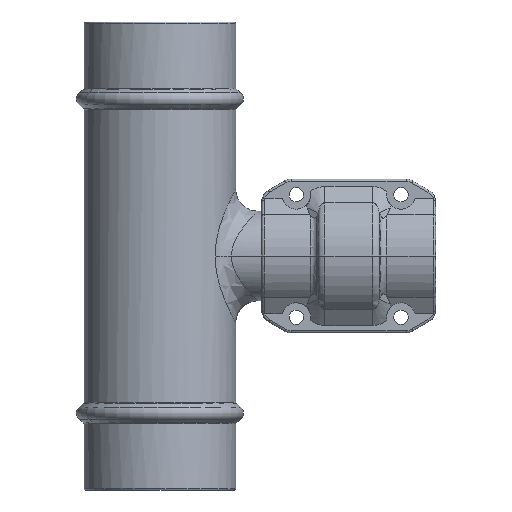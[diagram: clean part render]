
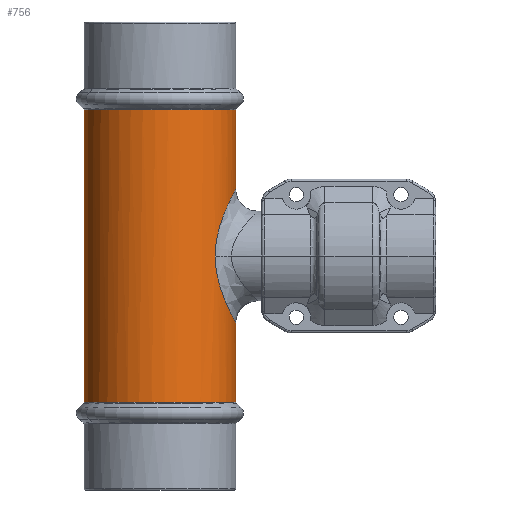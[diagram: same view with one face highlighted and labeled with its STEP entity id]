
A CAD part, front view. The second image highlights one B-rep face of the part: STEP entity #756.
In plain terms, the highlighted cylindrical face has radius 34 mm (diameter 68 mm), a partial arc.
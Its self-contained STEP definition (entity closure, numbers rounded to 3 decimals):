
#233=CYLINDRICAL_SURFACE('',#10644,34.);
#756=ADVANCED_FACE('',(#1476),#233,.T.);
#1476=FACE_OUTER_BOUND('',#2118,.T.);
#2118=EDGE_LOOP('',(#4439,#4440,#4441,#4442,#4443,#4444,#4445,#4446,#4447));
#2815=CIRCLE('',#10632,34.);
#2816=CIRCLE('',#10633,34.);
#2822=CIRCLE('',#10642,34.);
#2823=CIRCLE('',#10643,34.);
#3401=LINE('',#14758,#3873);
#3402=LINE('',#14766,#3874);
#3403=LINE('',#14767,#3875);
#3873=VECTOR('',#11883,1.);
#3874=VECTOR('',#11890,1.);
#3875=VECTOR('',#11891,1.);
#4439=ORIENTED_EDGE('',*,*,#8542,.F.);
#4440=ORIENTED_EDGE('',*,*,#8543,.F.);
#4441=ORIENTED_EDGE('',*,*,#8536,.F.);
#4442=ORIENTED_EDGE('',*,*,#8544,.T.);
#4443=ORIENTED_EDGE('',*,*,#8545,.T.);
#4444=ORIENTED_EDGE('',*,*,#8541,.F.);
#4445=ORIENTED_EDGE('',*,*,#8531,.F.);
#4446=ORIENTED_EDGE('',*,*,#8530,.F.);
#4447=ORIENTED_EDGE('',*,*,#8540,.T.);
#7564=VERTEX_POINT('',#14686);
#7565=VERTEX_POINT('',#14688);
#7566=VERTEX_POINT('',#14690);
#7567=VERTEX_POINT('',#14725);
#7569=VERTEX_POINT('',#14757);
#7570=VERTEX_POINT('',#14759);
#7573=VERTEX_POINT('',#14765);
#7574=VERTEX_POINT('',#14770);
#7575=VERTEX_POINT('',#14802);
#8530=EDGE_CURVE('',#7564,#7565,#2815,.T.);
#8531=EDGE_CURVE('',#7565,#7566,#2816,.T.);
#8536=EDGE_CURVE('',#7569,#7570,#3401,.T.);
#8540=EDGE_CURVE('',#7564,#7573,#3402,.T.);
#8541=EDGE_CURVE('',#7566,#7567,#3403,.T.);
#8542=EDGE_CURVE('',#7574,#7573,#2822,.T.);
#8543=EDGE_CURVE('',#7570,#7574,#2823,.T.);
#8544=EDGE_CURVE('',#7569,#7575,#10081,.T.);
#8545=EDGE_CURVE('',#7575,#7567,#10082,.T.);
#10081=B_SPLINE_CURVE_WITH_KNOTS('',3,(#14772,#14773,#14774,#14775,#14776,
#14777,#14778,#14779,#14780,#14781,#14782,#14783,#14784,#14785,#14786,#14787,
#14788,#14789,#14790,#14791,#14792,#14793,#14794,#14795,#14796,#14797,#14798,
#14799,#14800,#14801),.UNSPECIFIED.,.F.,.F.,(4,2,2,2,2,2,2,2,2,2,2,2,2,2,
4),(0.,0.062,0.125,0.187,0.219,
0.25,0.312,0.375,0.5,
0.625,0.688,0.75,0.813,0.875,1.),.UNSPECIFIED.);
#10082=B_SPLINE_CURVE_WITH_KNOTS('',3,(#14803,#14804,#14805,#14806,#14807,
#14808,#14809,#14810,#14811,#14812,#14813,#14814,#14815,#14816,#14817,#14818,
#14819,#14820,#14821,#14822,#14823,#14824,#14825,#14826,#14827,#14828,#14829,
#14830),.UNSPECIFIED.,.F.,.F.,(4,2,2,2,2,2,2,2,2,2,2,2,2,4),(0.,0.062,
0.125,0.187,0.25,0.375,
0.5,0.562,0.625,0.687,
0.75,0.812,0.875,1.),.UNSPECIFIED.);
#10632=AXIS2_PLACEMENT_3D('',#14687,#11871,#11872);
#10633=AXIS2_PLACEMENT_3D('',#14689,#11873,#11874);
#10642=AXIS2_PLACEMENT_3D('',#14769,#11894,#11895);
#10643=AXIS2_PLACEMENT_3D('',#14771,#11896,#11897);
#10644=AXIS2_PLACEMENT_3D('',#14831,#11898,#11899);
#11871=DIRECTION('',(0.,0.,1.));
#11872=DIRECTION('',(-1.,0.,0.));
#11873=DIRECTION('',(0.,0.,1.));
#11874=DIRECTION('',(0.809,-0.588,0.));
#11883=DIRECTION('',(0.,0.,-1.));
#11890=DIRECTION('',(0.,0.,-1.));
#11891=DIRECTION('',(0.,0.,-1.));
#11894=DIRECTION('',(0.,0.,-1.));
#11895=DIRECTION('',(-0.428,-0.904,0.));
#11896=DIRECTION('',(0.,0.,-1.));
#11897=DIRECTION('',(1.,0.,0.));
#11898=DIRECTION('',(0.,0.,1.));
#11899=DIRECTION('',(1.,0.,0.));
#14686=CARTESIAN_POINT('',(3.5,37.5,-39.302));
#14687=CARTESIAN_POINT('',(37.5,37.5,-39.302));
#14688=CARTESIAN_POINT('',(65.007,17.515,-39.302));
#14689=CARTESIAN_POINT('',(37.5,37.5,-39.302));
#14690=CARTESIAN_POINT('',(71.5,37.5,-39.302));
#14725=CARTESIAN_POINT('',(71.5,37.5,-74.9));
#14757=CARTESIAN_POINT('',(71.5,37.5,-135.1));
#14758=CARTESIAN_POINT('',(71.5,37.5,-135.1));
#14759=CARTESIAN_POINT('',(71.5,37.5,-170.698));
#14765=CARTESIAN_POINT('',(3.5,37.5,-170.698));
#14766=CARTESIAN_POINT('',(3.5,37.5,-39.302));
#14767=CARTESIAN_POINT('',(71.5,37.5,-39.302));
#14769=CARTESIAN_POINT('',(37.5,37.5,-170.698));
#14770=CARTESIAN_POINT('',(22.942,6.774,-170.698));
#14771=CARTESIAN_POINT('',(37.5,37.5,-170.698));
#14772=CARTESIAN_POINT('',(71.5,37.5,-135.1));
#14773=CARTESIAN_POINT('',(71.5,36.638,-135.1));
#14774=CARTESIAN_POINT('',(71.467,35.777,-135.038));
#14775=CARTESIAN_POINT('',(71.337,34.065,-134.791));
#14776=CARTESIAN_POINT('',(71.233,33.171,-134.593));
#14777=CARTESIAN_POINT('',(70.988,31.566,-134.123));
#14778=CARTESIAN_POINT('',(70.838,30.773,-133.834));
#14779=CARTESIAN_POINT('',(70.573,29.604,-133.317));
#14780=CARTESIAN_POINT('',(70.478,29.217,-133.131));
#14781=CARTESIAN_POINT('',(70.276,28.449,-132.733));
#14782=CARTESIAN_POINT('',(70.161,28.044,-132.504));
#14783=CARTESIAN_POINT('',(69.843,26.988,-131.869));
#14784=CARTESIAN_POINT('',(69.611,26.303,-131.402));
#14785=CARTESIAN_POINT('',(69.115,24.969,-130.378));
#14786=CARTESIAN_POINT('',(68.835,24.289,-129.792));
#14787=CARTESIAN_POINT('',(68.04,22.499,-128.083));
#14788=CARTESIAN_POINT('',(67.462,21.388,-126.789));
#14789=CARTESIAN_POINT('',(66.316,19.419,-124.026));
#14790=CARTESIAN_POINT('',(65.761,18.574,-122.597));
#14791=CARTESIAN_POINT('',(64.934,17.41,-120.197));
#14792=CARTESIAN_POINT('',(64.67,17.056,-119.386));
#14793=CARTESIAN_POINT('',(64.176,16.415,-117.743));
#14794=CARTESIAN_POINT('',(63.956,16.141,-116.955));
#14795=CARTESIAN_POINT('',(63.508,15.598,-115.177));
#14796=CARTESIAN_POINT('',(63.307,15.363,-114.283));
#14797=CARTESIAN_POINT('',(62.957,14.961,-112.488));
#14798=CARTESIAN_POINT('',(62.812,14.799,-111.625));
#14799=CARTESIAN_POINT('',(62.43,14.378,-108.791));
#14800=CARTESIAN_POINT('',(62.3,14.241,-106.898));
#14801=CARTESIAN_POINT('',(62.299,14.241,-105.));
#14802=CARTESIAN_POINT('',(62.299,14.241,-105.));
#14803=CARTESIAN_POINT('',(62.299,14.241,-105.));
#14804=CARTESIAN_POINT('',(62.3,14.241,-104.052));
#14805=CARTESIAN_POINT('',(62.332,14.276,-103.105));
#14806=CARTESIAN_POINT('',(62.461,14.414,-101.211));
#14807=CARTESIAN_POINT('',(62.563,14.525,-100.226));
#14808=CARTESIAN_POINT('',(62.807,14.794,-98.413));
#14809=CARTESIAN_POINT('',(62.957,14.961,-97.511));
#14810=CARTESIAN_POINT('',(63.307,15.363,-95.716));
#14811=CARTESIAN_POINT('',(63.521,15.613,-94.773));
#14812=CARTESIAN_POINT('',(64.154,16.381,-92.26));
#14813=CARTESIAN_POINT('',(64.675,17.045,-90.556));
#14814=CARTESIAN_POINT('',(65.746,18.552,-87.448));
#14815=CARTESIAN_POINT('',(66.308,19.405,-85.993));
#14816=CARTESIAN_POINT('',(67.179,20.903,-83.892));
#14817=CARTESIAN_POINT('',(67.467,21.426,-83.224));
#14818=CARTESIAN_POINT('',(68.029,22.522,-81.952));
#14819=CARTESIAN_POINT('',(68.292,23.066,-81.377));
#14820=CARTESIAN_POINT('',(68.849,24.321,-80.178));
#14821=CARTESIAN_POINT('',(69.114,24.968,-79.623));
#14822=CARTESIAN_POINT('',(69.611,26.302,-78.599));
#14823=CARTESIAN_POINT('',(69.829,26.942,-78.159));
#14824=CARTESIAN_POINT('',(70.282,28.446,-77.254));
#14825=CARTESIAN_POINT('',(70.484,29.213,-76.856));
#14826=CARTESIAN_POINT('',(70.837,30.773,-76.167));
#14827=CARTESIAN_POINT('',(70.982,31.525,-75.89));
#14828=CARTESIAN_POINT('',(71.369,34.059,-75.147));
#14829=CARTESIAN_POINT('',(71.5,35.776,-74.9));
#14830=CARTESIAN_POINT('',(71.5,37.5,-74.9));
#14831=CARTESIAN_POINT('',(37.5,37.5,-52.5));
